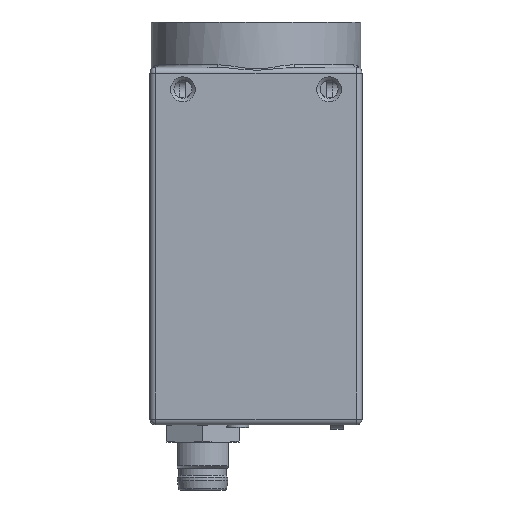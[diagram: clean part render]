
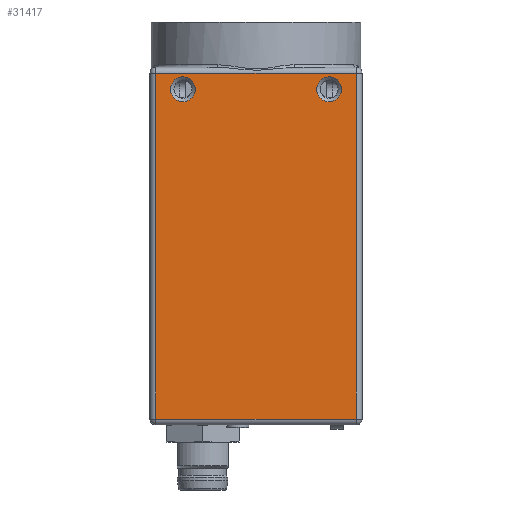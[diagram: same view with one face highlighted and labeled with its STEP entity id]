
A CAD part, left-side view. The second image highlights one B-rep face of the part: STEP entity #31417.
In plain terms, the highlighted planar face has unit normal (-1, 0, 0).
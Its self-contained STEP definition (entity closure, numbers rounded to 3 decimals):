
#1048=CIRCLE('',#33127,1.7);
#1049=CIRCLE('',#33129,1.7);
#1738=PLANE('',#33302);
#2922=LINE('',#44715,#4945);
#2935=LINE('',#44761,#4958);
#2943=LINE('',#44803,#4966);
#3013=LINE('',#45259,#5036);
#4945=VECTOR('',#37173,1000.);
#4958=VECTOR('',#37228,1000.);
#4966=VECTOR('',#37280,1000.);
#5036=VECTOR('',#37618,1000.);
#9131=ORIENTED_EDGE('',*,*,#14420,.T.);
#9132=ORIENTED_EDGE('',*,*,#14419,.T.);
#9133=ORIENTED_EDGE('',*,*,#14620,.T.);
#9134=ORIENTED_EDGE('',*,*,#14439,.T.);
#9135=ORIENTED_EDGE('',*,*,#14418,.T.);
#9136=ORIENTED_EDGE('',*,*,#14458,.T.);
#14418=EDGE_CURVE('',#17254,#17272,#2922,.T.);
#14419=EDGE_CURVE('',#17286,#17286,#1048,.T.);
#14420=EDGE_CURVE('',#17287,#17287,#1049,.T.);
#14439=EDGE_CURVE('',#17298,#17254,#2935,.F.);
#14458=EDGE_CURVE('',#17272,#17309,#2943,.T.);
#14620=EDGE_CURVE('',#17309,#17298,#3013,.T.);
#17254=VERTEX_POINT('',#44462);
#17272=VERTEX_POINT('',#44512);
#17286=VERTEX_POINT('',#44718);
#17287=VERTEX_POINT('',#44721);
#17298=VERTEX_POINT('',#44762);
#17309=VERTEX_POINT('',#44802);
#19274=EDGE_LOOP('',(#9131));
#19275=EDGE_LOOP('',(#9132));
#19276=EDGE_LOOP('',(#9133,#9134,#9135,#9136));
#20734=FACE_BOUND('',#19274,.T.);
#20735=FACE_BOUND('',#19275,.T.);
#20736=FACE_BOUND('',#19276,.T.);
#31417=ADVANCED_FACE('',(#20734,#20735,#20736),#1738,.T.);
#33127=AXIS2_PLACEMENT_3D('',#44717,#37176,#37177);
#33129=AXIS2_PLACEMENT_3D('',#44720,#37180,#37181);
#33302=AXIS2_PLACEMENT_3D('',#45258,#37616,#37617);
#37173=DIRECTION('',(0.,1.,0.));
#37176=DIRECTION('',(1.,0.,0.));
#37177=DIRECTION('',(0.,1.,0.));
#37180=DIRECTION('',(1.,0.,0.));
#37181=DIRECTION('',(0.,1.,0.));
#37228=DIRECTION('',(0.,0.,-1.));
#37280=DIRECTION('',(0.,0.,-1.));
#37616=DIRECTION('',(-1.,0.,0.));
#37617=DIRECTION('',(0.,0.,1.));
#37618=DIRECTION('',(0.,-1.,0.));
#44462=CARTESIAN_POINT('',(-14.5,-13.7,11.4));
#44512=CARTESIAN_POINT('',(-14.5,13.7,11.4));
#44715=CARTESIAN_POINT('',(-14.5,14.5,11.4));
#44717=CARTESIAN_POINT('',(-14.5,10.,9.2));
#44718=CARTESIAN_POINT('',(-14.5,11.7,9.2));
#44720=CARTESIAN_POINT('',(-14.5,-10.,9.2));
#44721=CARTESIAN_POINT('',(-14.5,-8.3,9.2));
#44761=CARTESIAN_POINT('',(-14.5,-13.7,12.2));
#44762=CARTESIAN_POINT('',(-14.5,-13.7,-35.9));
#44802=CARTESIAN_POINT('',(-14.5,13.7,-35.9));
#44803=CARTESIAN_POINT('',(-14.5,13.7,12.2));
#45258=CARTESIAN_POINT('',(-14.5,-14.5,12.2));
#45259=CARTESIAN_POINT('',(-14.5,-14.5,-35.9));
